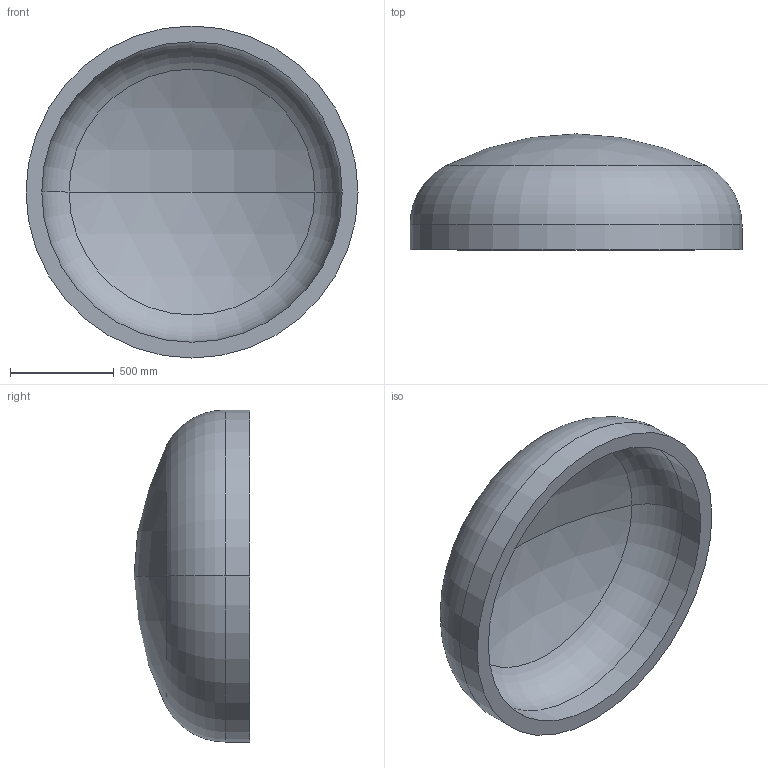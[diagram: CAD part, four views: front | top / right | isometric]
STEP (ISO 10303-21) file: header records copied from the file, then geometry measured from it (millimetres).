
FILE_DESCRIPTION (( 'STEP AP203' ), '1' );
FILE_NAME ('DIN 28013 Korbbogenform_-_Boden DIN 28013 - 1600 x 120 - I - s=76.step', '2016-07-01T11:24:50', ( '' ), ( '' ), 'SwSTEP 2.0', 'SolidWorks 2013', '' );
FILE_SCHEMA (( 'CONFIG_CONTROL_DESIGN' ));
Length unit declared in the file: millimetre
Products named in the file (1): DIN 28013 Korbbogenform_-_Boden DIN 28013 - 1600 x 120 - I - s=76
Bounding box: 1600 x 558.51 x 1600 mm (x, y, z)
Volume: 242512366.2 mm3; surface area: 6757871.8 mm2
Topology: 1 solids, 1 shells, 13 faces, 24 edges, 14 vertices
Faces by surface type: torus 4, cylinder 4, sphere 4, plane 1
Entity records: 407 total; most frequent: DIRECTION 72, CARTESIAN_POINT 52, ORIENTED_EDGE 48, AXIS2_PLACEMENT_3D 34, EDGE_CURVE 24, CIRCLE 20, VERTEX_POINT 14, EDGE_LOOP 14
